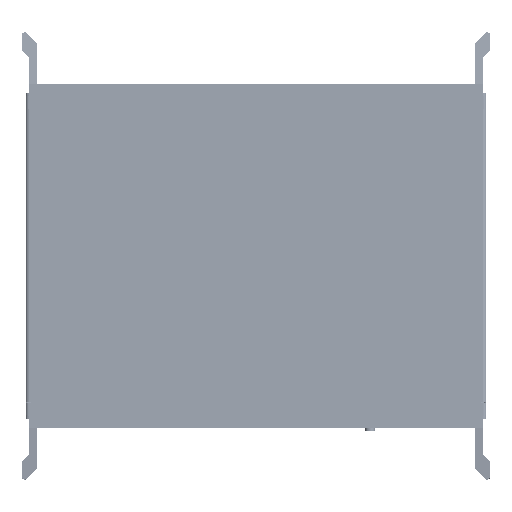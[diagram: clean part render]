
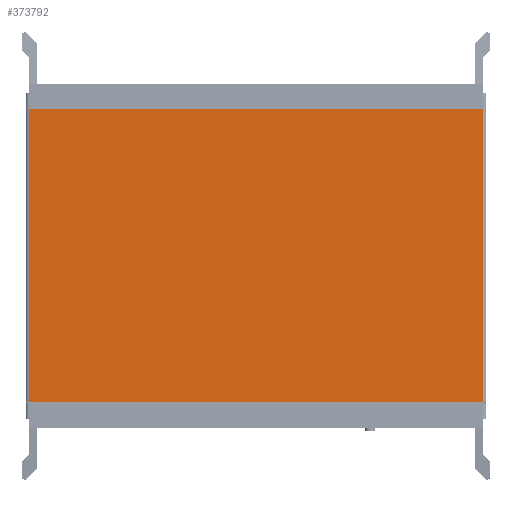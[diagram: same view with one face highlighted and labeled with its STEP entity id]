
A CAD part, top view. The second image highlights one B-rep face of the part: STEP entity #373792.
In plain terms, the highlighted planar face has unit normal (0, 0, 1) as drawn and (0, 1, 0) by its records, which use the part's own axes.
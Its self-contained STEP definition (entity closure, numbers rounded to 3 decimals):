
#21577=PLANE('',#395528);
#56243=LINE('',#583741,#99593);
#56244=LINE('',#583744,#99594);
#56245=LINE('',#583746,#99595);
#56246=LINE('',#583747,#99596);
#99593=VECTOR('',#464452,336.82);
#99594=VECTOR('',#464455,217.4);
#99595=VECTOR('',#464456,217.4);
#99596=VECTOR('',#464457,336.82);
#126716=FACE_OUTER_BOUND('',#148722,.T.);
#148722=EDGE_LOOP('',(#320439,#320440,#320441,#320442));
#188821=VERTEX_POINT('',#583735);
#188823=VERTEX_POINT('',#583739);
#188824=VERTEX_POINT('',#583743);
#188825=VERTEX_POINT('',#583745);
#234869=EDGE_CURVE('',#188821,#188823,#56243,.T.);
#234870=EDGE_CURVE('',#188824,#188821,#56244,.T.);
#234871=EDGE_CURVE('',#188825,#188823,#56245,.T.);
#234872=EDGE_CURVE('',#188825,#188824,#56246,.T.);
#320439=ORIENTED_EDGE('',*,*,#234870,.T.);
#320440=ORIENTED_EDGE('',*,*,#234869,.T.);
#320441=ORIENTED_EDGE('',*,*,#234871,.F.);
#320442=ORIENTED_EDGE('',*,*,#234872,.T.);
#373792=ADVANCED_FACE('',(#126716),#21577,.F.);
#395528=AXIS2_PLACEMENT_3D('',#583742,#464453,#464454);
#464452=DIRECTION('',(-1.,0.,0.));
#464453=DIRECTION('center_axis',(0.,-1.,0.));
#464454=DIRECTION('ref_axis',(0.,0.,-1.));
#464455=DIRECTION('',(0.,0.,-1.));
#464456=DIRECTION('',(0.,0.,-1.));
#464457=DIRECTION('',(1.,0.,0.));
#583735=CARTESIAN_POINT('',(168.41,0.,-108.7));
#583739=CARTESIAN_POINT('',(-168.41,0.,-108.7));
#583741=CARTESIAN_POINT('',(168.41,0.,-108.7));
#583742=CARTESIAN_POINT('Origin',(0.,0.,-108.7));
#583743=CARTESIAN_POINT('',(168.41,0.,108.7));
#583744=CARTESIAN_POINT('',(168.41,0.,108.7));
#583745=CARTESIAN_POINT('',(-168.41,0.,108.7));
#583746=CARTESIAN_POINT('',(-168.41,0.,108.7));
#583747=CARTESIAN_POINT('',(-168.41,0.,108.7));
